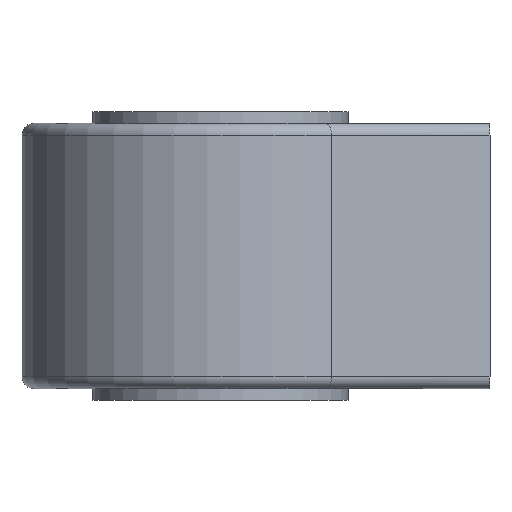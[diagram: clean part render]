
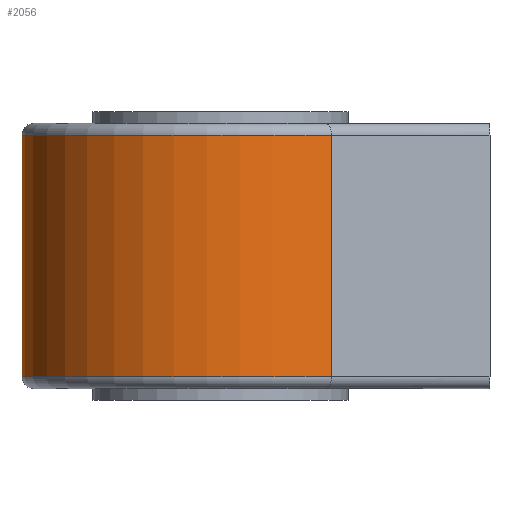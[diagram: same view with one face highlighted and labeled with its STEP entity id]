
A CAD part, front view. The second image highlights one B-rep face of the part: STEP entity #2056.
In plain terms, the highlighted cylindrical face has radius 16.95 mm (diameter 33.9 mm), a partial arc.
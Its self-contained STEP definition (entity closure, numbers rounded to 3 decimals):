
#228 = VERTEX_POINT ( 'NONE', #4811 ) ;
#344 = EDGE_CURVE ( 'NONE', #228, #1269, #3398, .T. ) ;
#463 = DIRECTION ( 'NONE',  ( 0., 0., -1. ) ) ;
#686 = AXIS2_PLACEMENT_3D ( 'NONE', #2308, #1640, #4505 ) ;
#789 = ORIENTED_EDGE ( 'NONE', *, *, #3639, .T. ) ;
#1057 = CARTESIAN_POINT ( 'NONE',  ( 9.429, -14.085, -10.325 ) ) ;
#1140 = CARTESIAN_POINT ( 'NONE',  ( 9.429, -14.085, 10.325 ) ) ;
#1262 = CARTESIAN_POINT ( 'NONE',  ( 0., 0., -10.325 ) ) ;
#1269 = VERTEX_POINT ( 'NONE', #1057 ) ;
#1637 = ORIENTED_EDGE ( 'NONE', *, *, #4025, .F. ) ;
#1640 = DIRECTION ( 'NONE',  ( 0., 0., -1. ) ) ;
#2056 = ADVANCED_FACE ( 'NONE', ( #6345 ), #6374, .T. ) ;
#2125 = VERTEX_POINT ( 'NONE', #1140 ) ;
#2137 = EDGE_CURVE ( 'NONE', #2125, #3471, #3931, .T. ) ;
#2153 = CARTESIAN_POINT ( 'NONE',  ( 9.429, -14.085, 11.325 ) ) ;
#2216 = ORIENTED_EDGE ( 'NONE', *, *, #2137, .T. ) ;
#2308 = CARTESIAN_POINT ( 'NONE',  ( 0., 0., 10.325 ) ) ;
#2613 = CARTESIAN_POINT ( 'NONE',  ( -16.95, 0., 11.325 ) ) ;
#2876 = CARTESIAN_POINT ( 'NONE',  ( 0., 0., 11.325 ) ) ;
#3163 = DIRECTION ( 'NONE',  ( 0., 0., -1. ) ) ;
#3176 = DIRECTION ( 'NONE',  ( -1., 0., 0. ) ) ;
#3216 = VECTOR ( 'NONE', #3163, 1000. ) ;
#3398 = CIRCLE ( 'NONE', #4367, 16.95 ) ;
#3471 = VERTEX_POINT ( 'NONE', #6459 ) ;
#3639 = EDGE_CURVE ( 'NONE', #3471, #228, #5083, .T. ) ;
#3931 = CIRCLE ( 'NONE', #686, 16.95 ) ;
#3967 = AXIS2_PLACEMENT_3D ( 'NONE', #2876, #463, #5188 ) ;
#4025 = EDGE_CURVE ( 'NONE', #2125, #1269, #7356, .T. ) ;
#4349 = DIRECTION ( 'NONE',  ( 0., 0., 1. ) ) ;
#4367 = AXIS2_PLACEMENT_3D ( 'NONE', #1262, #4349, #3176 ) ;
#4505 = DIRECTION ( 'NONE',  ( -1., 0., 0. ) ) ;
#4811 = CARTESIAN_POINT ( 'NONE',  ( -16.95, 0., -10.325 ) ) ;
#5083 = LINE ( 'NONE', #2613, #6466 ) ;
#5188 = DIRECTION ( 'NONE',  ( -1., 0., 0. ) ) ;
#6193 = DIRECTION ( 'NONE',  ( 0., 0., -1. ) ) ;
#6345 = FACE_OUTER_BOUND ( 'NONE', #6919, .T. ) ;
#6374 = CYLINDRICAL_SURFACE ( 'NONE', #3967, 16.95 ) ;
#6459 = CARTESIAN_POINT ( 'NONE',  ( -16.95, 0., 10.325 ) ) ;
#6466 = VECTOR ( 'NONE', #6193, 1000. ) ;
#6919 = EDGE_LOOP ( 'NONE', ( #2216, #789, #6992, #1637 ) ) ;
#6992 = ORIENTED_EDGE ( 'NONE', *, *, #344, .T. ) ;
#7356 = LINE ( 'NONE', #2153, #3216 ) ;
